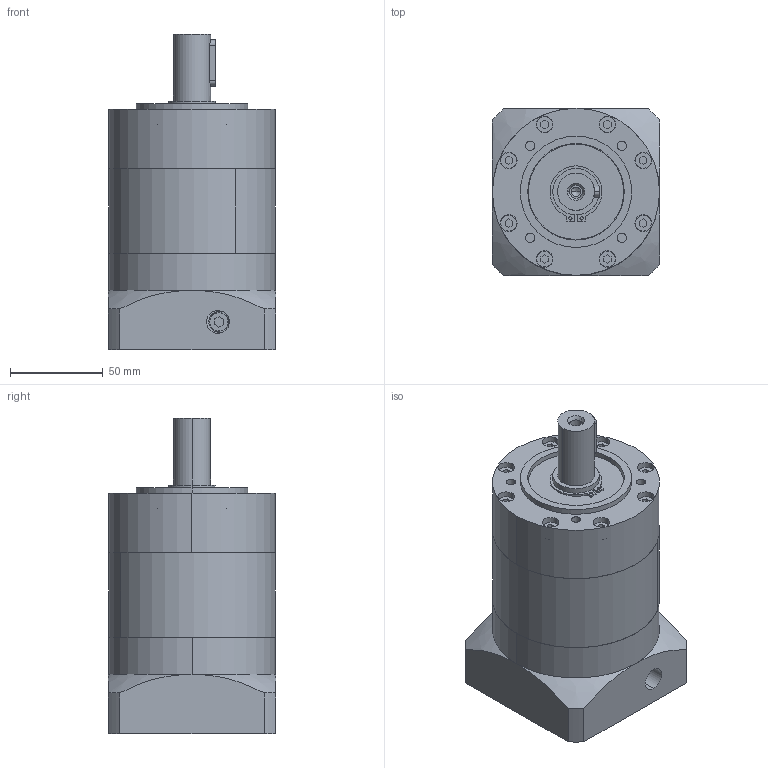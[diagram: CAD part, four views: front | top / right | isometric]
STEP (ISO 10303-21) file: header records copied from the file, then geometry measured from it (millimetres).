
FILE_DESCRIPTION (( 'STEP AP214' ), '1' );
FILE_NAME ('PLE-090-L2-S2-P2 19-70-90-M5.STEP', '2021-04-24T02:56:33', ( 'Microsoft' ), ( 'Microsoft China' ), 'SwSTEP 2.0', 'SolidWorks 2016', '' );
FILE_SCHEMA (( 'AUTOMOTIVE_DESIGN' ));
Length unit declared in the file: millimetre
Products named in the file (8): PLE90 奻屳唳; PLE90 蟀諉啣-梓袧_D8-70 D9-90 D10-M5 A2-90 L4-32 L6-47(32+15) L7-6 R-59.5梓袧; 粣創-6007 35x62x14; 邧埴瑩 6x6x25; 囀鞠褒蹟佪 M6x20; PLE90 狟屳唳_D6-90 D7-19 梓袧; PLE90 內齿圈-优化_二级内齿圈; PLE-090-L2-S2-P2 19-70-90-M5
Assembly tree (7 placements, depth 2):
  PLE-090-L2-S2-P2 19-70-90-M5
    PLE90 內齿圈-优化_二级内齿圈
    PLE90 狟屳唳_D6-90 D7-19 梓袧
    囀鞠褒蹟佪 M6x20
    邧埴瑩 6x6x25
    粣創-6007 35x62x14
    PLE90 蟀諉啣-梓袧_D8-70 D9-90 D10-M5 A2-90 L4-32 L6-47(32+15) L7-6 R-59.5梓袧
    PLE90 奻屳唳
Bounding box: 90 x 90 x 170 mm (x, y, z)
Volume: 787469.7 mm3; surface area: 143914.8 mm2
Topology: 7 solids, 7 shells, 518 faces, 1372 edges, 900 vertices
Faces by surface type: plane 185, cylinder 177, sphere 88, torus 54, cone 14
Entity records: 25361 total; most frequent: CARTESIAN_POINT 6436, ORIENTED_EDGE 2724, DIRECTION 2705, EDGE_CURVE 1362, AXIS2_PLACEMENT_3D 1137, VERTEX_POINT 900, EDGE_LOOP 624, CIRCLE 609
